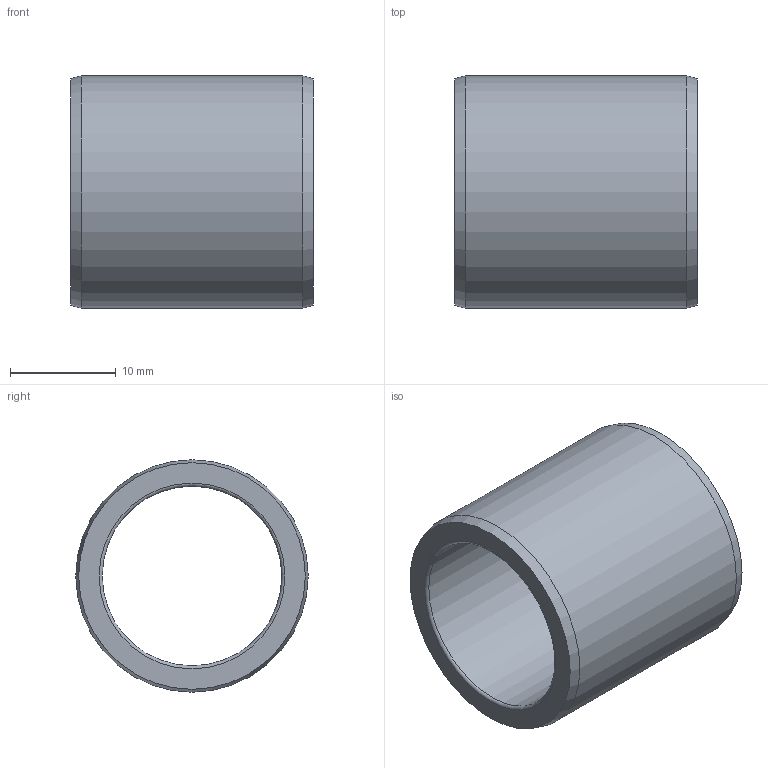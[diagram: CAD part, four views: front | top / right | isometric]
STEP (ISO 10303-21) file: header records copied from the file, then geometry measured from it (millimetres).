
FILE_DESCRIPTION(/* description */ (''),/* implementation_level */ '2;1');
FILE_NAME(/* name */ 'C:\Users\OUREHANEKD\Desktop\Chybajuce 3D modely\IR\Sestava4\IR-17x22x23.stp',/* time_stamp */ '2018-06-04T14:42:34+02:00',/* author */ ('OUREHANEKD'),/* organization */ (''),/* preprocessor_version */ 'ST-DEVELOPER v16.13',/* originating_system */ 'Autodesk Inventor 2018',/* authorisation */ '');
FILE_SCHEMA (('AUTOMOTIVE_DESIGN { 1 0 10303 214 3 1 1 }'));
Length unit declared in the file: millimetre
Products named in the file (2): IR-17x22x23; 01_IR-17x22x23
Assembly tree (1 placements, depth 2):
  IR-17x22x23
    01_IR-17x22x23
Bounding box: 23 x 22 x 22 mm (x, y, z)
Volume: 3501.5 mm3; surface area: 3077 mm2
Topology: 1 solids, 1 shells, 8 faces, 14 edges, 8 vertices
Faces by surface type: torus 2, cylinder 2, plane 2, cone 2
Full cylindrical faces by diameter (mm): 17 x1, 22 x1
Entity records: 233 total; most frequent: DIRECTION 38, CARTESIAN_POINT 27, AXIS2_PLACEMENT_3D 19, EDGE_LOOP 16, ORIENTED_EDGE 16, FACE_BOUND 8, FACE_OUTER_BOUND 8, CIRCLE 8
